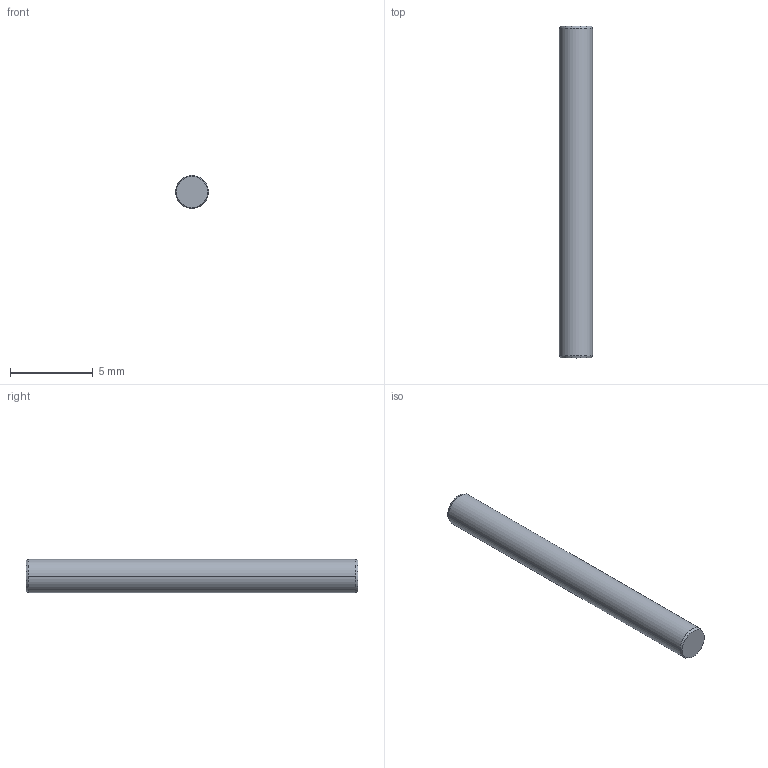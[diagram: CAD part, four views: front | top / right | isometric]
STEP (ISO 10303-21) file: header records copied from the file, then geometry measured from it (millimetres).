
FILE_DESCRIPTION((''),'2;1');
FILE_NAME('PIN','2024-02-21T17:16:17',('qinghui.yi'),(''),'CREO PARAMETRIC BY PTC INC, 2019164','CREO PARAMETRIC BY PTC INC, 2019164','');
FILE_SCHEMA(('CONFIG_CONTROL_DESIGN','SHAPE_APPEARANCE_LAYERS_GROUPS'));
Length unit declared in the file: millimetre
Products named in the file (1): PIN
Bounding box: 2 x 20 x 2 mm (x, y, z)
Volume: 62.8 mm3; surface area: 131.3 mm2
Topology: 1 solids, 1 shells, 8 faces, 17 edges, 14 vertices
Faces by surface type: cone 4, plane 2, cylinder 2
Entity records: 593 total; most frequent: COLOUR_RGB 312, DIRECTION 43, CARTESIAN_POINT 34, ORIENTED_EDGE 28, AXIS2_PLACEMENT_3D 17, EDGE_CURVE 14, VECTOR 9, LINE 9
